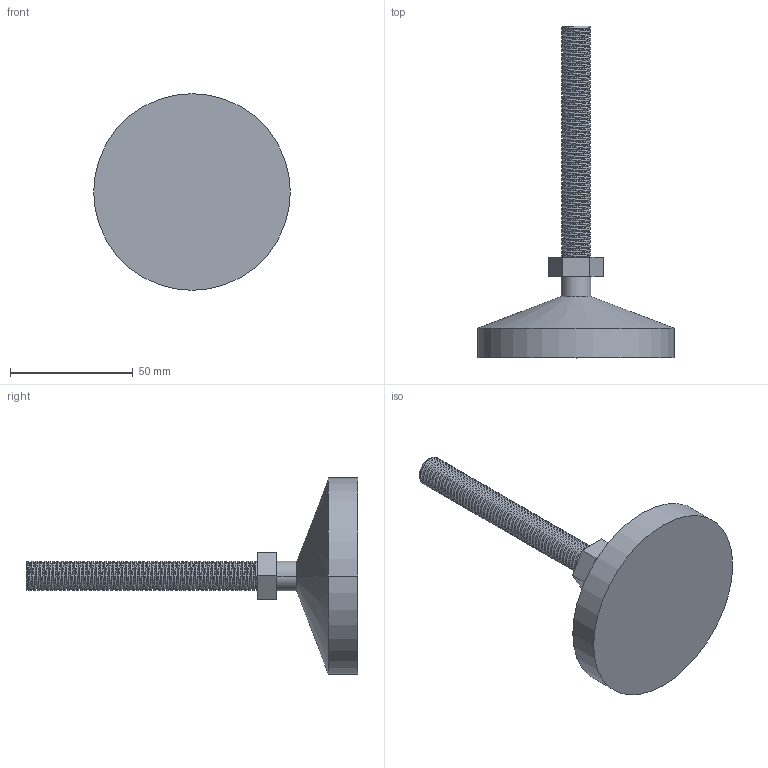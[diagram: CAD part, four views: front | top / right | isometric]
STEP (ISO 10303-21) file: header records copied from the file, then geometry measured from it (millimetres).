
FILE_DESCRIPTION (( 'STEP AP203' ), '1' );
FILE_NAME ('224-CE-DAF-12.STEP', '2015-07-09T09:31:01', ( '' ), ( '' ), 'SwSTEP 2.0', 'SolidWorks 2013', '' );
FILE_SCHEMA (( 'CONFIG_CONTROL_DESIGN' ));
Length unit declared in the file: millimetre
Products named in the file (1): 224-CE-DAF-12
Bounding box: 80 x 135 x 80 mm (x, y, z)
Volume: 98954.7 mm3; surface area: 20602.5 mm2
Topology: 1 solids, 1 shells, 131 faces, 376 edges, 249 vertices
Faces by surface type: cylinder 112, plane 11, torus 3, bspline 3, cone 2
Entity records: 10413 total; most frequent: CARTESIAN_POINT 7565, ORIENTED_EDGE 752, DIRECTION 426, EDGE_CURVE 376, VERTEX_POINT 249, AXIS2_PLACEMENT_3D 146, LINE 134, VECTOR 134
